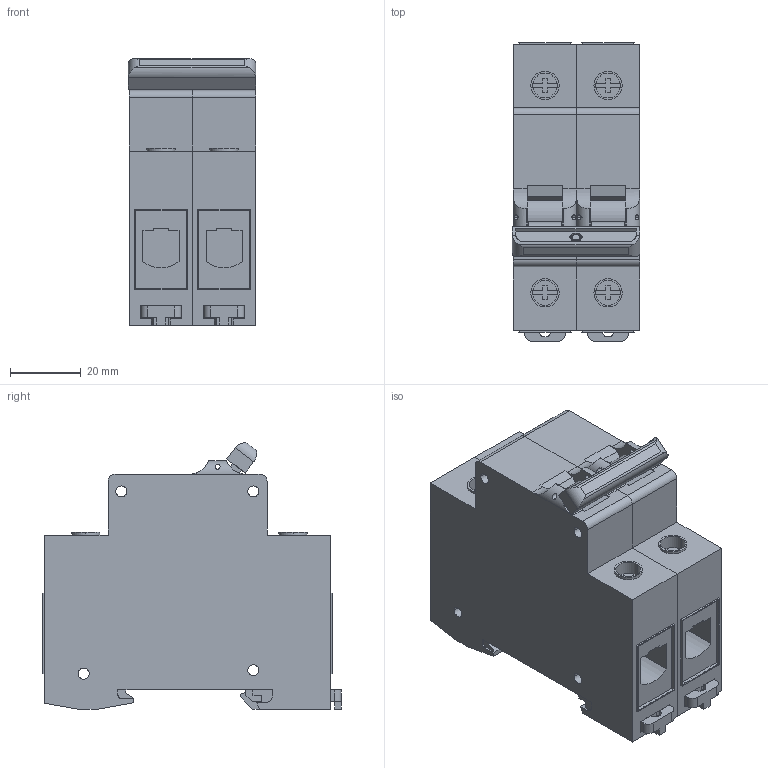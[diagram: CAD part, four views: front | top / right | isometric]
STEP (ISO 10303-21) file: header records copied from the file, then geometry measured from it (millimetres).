
FILE_DESCRIPTION((''),'2;1');
FILE_NAME('SWITCH_2P_3D-SIMPLIFIED_ASM','2012-09-05T',('Nyco'),(''),'PRO/ENGINEER BY PARAMETRIC TECHNOLOGY CORPORATION, 2006170','PRO/ENGINEER BY PARAMETRIC TECHNOLOGY CORPORATION, 2006170','');
FILE_SCHEMA(('CONFIG_CONTROL_DESIGN'));
Length unit declared in the file: millimetre
Products named in the file (7): COQUE; MANETTE; CLIP; VIS_7D; BLOCK_01_ASM; EXTENSION_MANETTE_02_2P; SWITCH_2P_3D-SIMPLIFIED_ASM
Assembly tree (8 placements, depth 3):
  SWITCH_2P_3D-SIMPLIFIED_ASM
    BLOCK_01_ASM  x2
      COQUE
      MANETTE
      CLIP
      VIS_7D
    EXTENSION_MANETTE_02_2P
Bounding box: 36 x 84.5 x 75.44 mm (x, y, z)
Volume: 155465.5 mm3; surface area: 41341.2 mm2
Topology: 11 solids, 11 shells, 561 faces, 1505 edges, 994 vertices
Faces by surface type: plane 419, cylinder 142
Entity records: 9096 total; most frequent: CARTESIAN_POINT 1746, ORIENTED_EDGE 1504, DIRECTION 1470, EDGE_CURVE 752, VECTOR 602, LINE 602, VERTEX_POINT 496, AXIS2_PLACEMENT_3D 434
